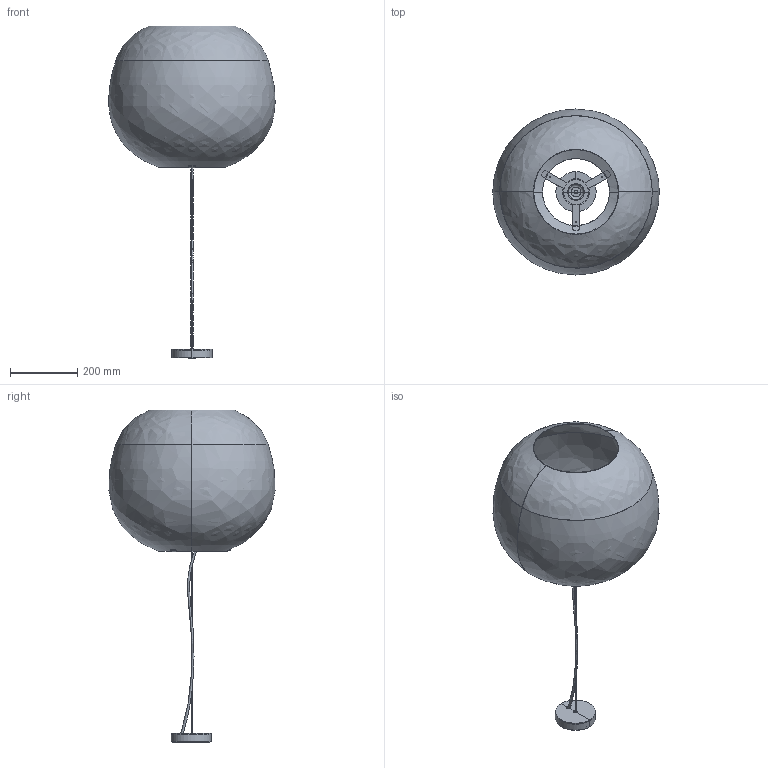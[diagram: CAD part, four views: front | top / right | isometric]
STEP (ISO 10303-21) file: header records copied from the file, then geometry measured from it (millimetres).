
FILE_DESCRIPTION(/* description */ (''),/* implementation_level */ '2;1');
FILE_NAME(/* name */ '20401.step',/* time_stamp */ '2024-03-28T09:52:09+01:00',/* author */ ('RenataManzini'),/* organization */ (''),/* preprocessor_version */ 'ST-DEVELOPER v20',/* originating_system */ 'AutoCAD Mechanical',/* authorisation */ '');
FILE_SCHEMA (('AUTOMOTIVE_DESIGN { 1 0 10303 214 3 1 1 }'));
Length unit declared in the file: millimetre
Products named in the file (4): Product; Pieza_20400_SC - Lamp Holder-674008-_3D_; Pieza_20400_SL01 - Lamp Holder-678880-_3D_; Pieza_20400_SL02 - Lamp Holder-694897-_3D_
Assembly tree (3 placements, depth 2):
  Product
    Pieza_20400_SC - Lamp Holder-674008-_3D_
    Pieza_20400_SL01 - Lamp Holder-678880-_3D_
    Pieza_20400_SL02 - Lamp Holder-694897-_3D_
Bounding box: 496.31 x 495.25 x 990.19 mm (x, y, z)
Volume: 912250.2 mm3; surface area: 1490660.7 mm2
Topology: 8 solids, 8 shells, 142 faces, 319 edges, 190 vertices
Faces by surface type: plane 67, cylinder 53, bspline 10, cone 8, torus 4
Entity records: 8521 total; most frequent: CARTESIAN_POINT 5278, DIRECTION 671, ORIENTED_EDGE 638, EDGE_CURVE 319, AXIS2_PLACEMENT_3D 251, VERTEX_POINT 190, LINE 169, VECTOR 169
